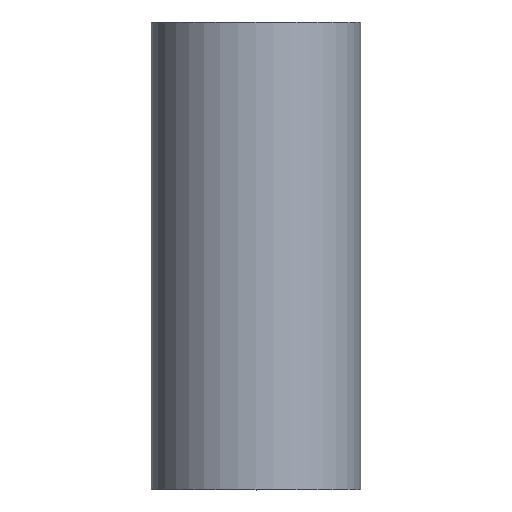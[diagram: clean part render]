
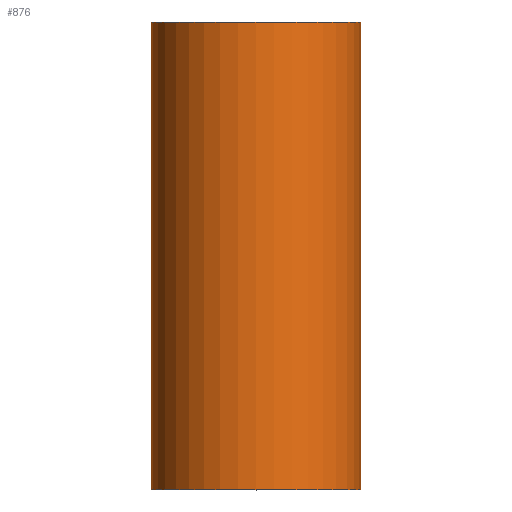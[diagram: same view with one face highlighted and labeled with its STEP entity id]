
A CAD part, top view. The second image highlights one B-rep face of the part: STEP entity #876.
In plain terms, the highlighted cylindrical face has radius 32.5 mm (diameter 65 mm), a partial arc.
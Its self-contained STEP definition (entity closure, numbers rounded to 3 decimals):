
#6=CARTESIAN_POINT('',(0.,0.,0.));
#7=DIRECTION('',(0.,1.,0.));
#8=DIRECTION('',(-1.,0.,0.));
#9=AXIS2_PLACEMENT_3D('',#6,#7,#8);
#66=DIRECTION('',(0.,-1.,0.));
#67=VECTOR('',#66,145.);
#68=CARTESIAN_POINT('',(32.5,0.,0.));
#69=LINE('',#68,#67);
#70=DIRECTION('',(0.,1.,0.));
#71=VECTOR('',#70,145.);
#72=CARTESIAN_POINT('',(-32.5,-145.,0.));
#73=LINE('',#72,#71);
#79=CARTESIAN_POINT('',(0.,-145.,0.));
#80=DIRECTION('',(0.,1.,0.));
#81=DIRECTION('',(-1.,0.,0.));
#82=AXIS2_PLACEMENT_3D('',#79,#80,#81);
#653=CARTESIAN_POINT('',(32.5,0.,0.));
#654=CARTESIAN_POINT('',(-32.5,0.,0.));
#655=VERTEX_POINT('',#653);
#656=VERTEX_POINT('',#654);
#689=CARTESIAN_POINT('',(-32.5,-145.,0.));
#690=CARTESIAN_POINT('',(32.5,-145.,0.));
#691=VERTEX_POINT('',#689);
#692=VERTEX_POINT('',#690);
#864=CARTESIAN_POINT('',(0.,0.,0.));
#865=DIRECTION('',(0.,1.,0.));
#866=DIRECTION('',(1.,0.,0.));
#867=AXIS2_PLACEMENT_3D('',#864,#865,#866);
#868=CYLINDRICAL_SURFACE('',#867,32.5);
#869=ORIENTED_EDGE('',*,*,#838,.T.);
#871=ORIENTED_EDGE('',*,*,#870,.F.);
#872=ORIENTED_EDGE('',*,*,#834,.T.);
#873=ORIENTED_EDGE('',*,*,#818,.T.);
#874=EDGE_LOOP('',(#869,#871,#872,#873));
#875=FACE_OUTER_BOUND('',#874,.F.);
#876=ADVANCED_FACE('',(#875),#868,.T.);
#10=CIRCLE('',#9,32.5);
#83=CIRCLE('',#82,32.5);
#818=EDGE_CURVE('',#656,#655,#10,.T.);
#834=EDGE_CURVE('',#691,#656,#73,.T.);
#838=EDGE_CURVE('',#655,#692,#69,.T.);
#870=EDGE_CURVE('',#691,#692,#83,.T.);
